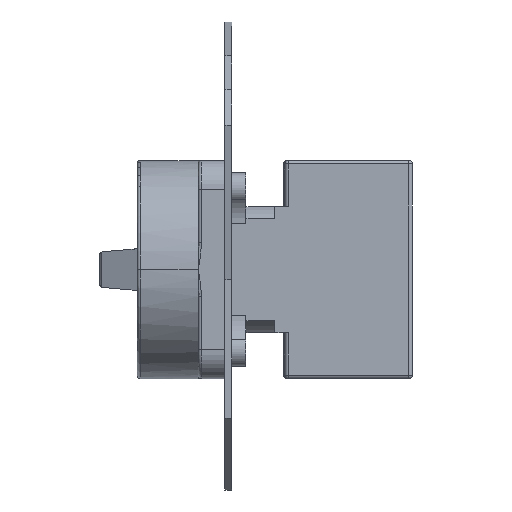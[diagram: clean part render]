
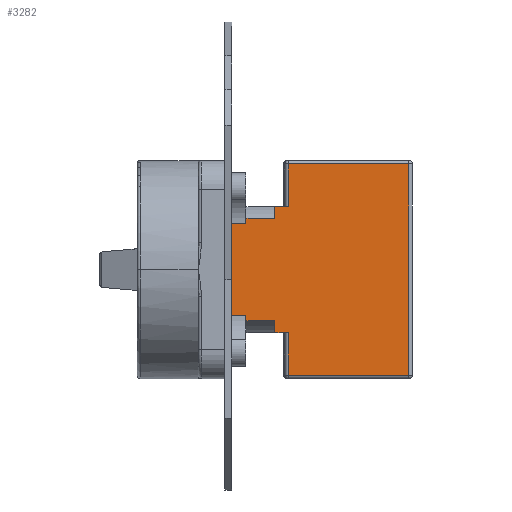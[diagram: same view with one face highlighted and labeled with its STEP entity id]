
A CAD part, left-side view. The second image highlights one B-rep face of the part: STEP entity #3282.
In plain terms, the highlighted planar face has unit normal (-1, 0, 0).
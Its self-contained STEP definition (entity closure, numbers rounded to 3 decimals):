
#46 = CARTESIAN_POINT ( 'NONE',  ( -24., 53., 19. ) ) ;
#63 = VECTOR ( 'NONE', #212, 1000. ) ;
#178 = VERTEX_POINT ( 'NONE', #8365 ) ;
#212 = DIRECTION ( 'NONE',  ( 0., 1., 0. ) ) ;
#269 = VERTEX_POINT ( 'NONE', #6031 ) ;
#303 = CARTESIAN_POINT ( 'NONE',  ( -24., 36.4, 31. ) ) ;
#400 = LINE ( 'NONE', #5191, #4523 ) ;
#495 = ORIENTED_EDGE ( 'NONE', *, *, #862, .T. ) ;
#595 = LINE ( 'NONE', #4546, #5238 ) ;
#597 = CARTESIAN_POINT ( 'NONE',  ( -24., 40.3, 15. ) ) ;
#615 = EDGE_CURVE ( 'NONE', #1034, #2747, #9546, .T. ) ;
#639 = CARTESIAN_POINT ( 'NONE',  ( -24., 0., 31. ) ) ;
#696 = EDGE_CURVE ( 'NONE', #5903, #1321, #1940, .T. ) ;
#790 = VECTOR ( 'NONE', #2286, 1000. ) ;
#862 = EDGE_CURVE ( 'NONE', #2634, #178, #400, .T. ) ;
#1034 = VERTEX_POINT ( 'NONE', #5939 ) ;
#1174 = ORIENTED_EDGE ( 'NONE', *, *, #2812, .F. ) ;
#1233 = LINE ( 'NONE', #3054, #7023 ) ;
#1321 = VERTEX_POINT ( 'NONE', #7843 ) ;
#1331 = ORIENTED_EDGE ( 'NONE', *, *, #5734, .F. ) ;
#1490 = VECTOR ( 'NONE', #7296, 1000. ) ;
#1552 = VERTEX_POINT ( 'NONE', #2984 ) ;
#1724 = CARTESIAN_POINT ( 'NONE',  ( -24., 40.3, -15. ) ) ;
#1759 = VERTEX_POINT ( 'NONE', #1957 ) ;
#1775 = VERTEX_POINT ( 'NONE', #303 ) ;
#1940 = LINE ( 'NONE', #8204, #6078 ) ;
#1957 = CARTESIAN_POINT ( 'NONE',  ( -24., 53., 13.495 ) ) ;
#1991 = VERTEX_POINT ( 'NONE', #2591 ) ;
#2022 = DIRECTION ( 'NONE',  ( 0., 0., -1. ) ) ;
#2071 = ORIENTED_EDGE ( 'NONE', *, *, #4347, .T. ) ;
#2279 = CARTESIAN_POINT ( 'NONE',  ( -24., 48.8, -13.495 ) ) ;
#2286 = DIRECTION ( 'NONE',  ( 0., 0., 1. ) ) ;
#2360 = ORIENTED_EDGE ( 'NONE', *, *, #615, .T. ) ;
#2492 = DIRECTION ( 'NONE',  ( 0., 0., 1. ) ) ;
#2533 = CARTESIAN_POINT ( 'NONE',  ( -24., 48.8, -13.495 ) ) ;
#2549 = ORIENTED_EDGE ( 'NONE', *, *, #3792, .F. ) ;
#2591 = CARTESIAN_POINT ( 'NONE',  ( -24., 36.4, 18.5 ) ) ;
#2610 = DIRECTION ( 'NONE',  ( 0., 0., -1. ) ) ;
#2634 = VERTEX_POINT ( 'NONE', #2533 ) ;
#2674 = ORIENTED_EDGE ( 'NONE', *, *, #7434, .T. ) ;
#2736 = LINE ( 'NONE', #1724, #3010 ) ;
#2747 = VERTEX_POINT ( 'NONE', #7588 ) ;
#2812 = EDGE_CURVE ( 'NONE', #4949, #1991, #595, .T. ) ;
#2821 = DIRECTION ( 'NONE',  ( 0., -1., 0. ) ) ;
#2984 = CARTESIAN_POINT ( 'NONE',  ( -24., 36.4, -18.5 ) ) ;
#3010 = VECTOR ( 'NONE', #7464, 1000. ) ;
#3020 = ORIENTED_EDGE ( 'NONE', *, *, #9047, .F. ) ;
#3054 = CARTESIAN_POINT ( 'NONE',  ( -24., 37.4, -18.5 ) ) ;
#3282 = ADVANCED_FACE ( 'NONE', ( #7157 ), #5904, .F. ) ;
#3315 = VERTEX_POINT ( 'NONE', #5166 ) ;
#3539 = EDGE_CURVE ( 'NONE', #1552, #9701, #1233, .T. ) ;
#3792 = EDGE_CURVE ( 'NONE', #8326, #178, #2736, .T. ) ;
#3848 = EDGE_CURVE ( 'NONE', #1552, #8873, #8808, .T. ) ;
#3892 = DIRECTION ( 'NONE',  ( 0., 1., 0. ) ) ;
#3899 = CARTESIAN_POINT ( 'NONE',  ( -24., 36.4, -31. ) ) ;
#3908 = LINE ( 'NONE', #6938, #10201 ) ;
#3912 = ORIENTED_EDGE ( 'NONE', *, *, #10324, .F. ) ;
#3974 = CARTESIAN_POINT ( 'NONE',  ( -24., 40.3, 18.5 ) ) ;
#4036 = VECTOR ( 'NONE', #2492, 1000. ) ;
#4091 = LINE ( 'NONE', #2279, #10639 ) ;
#4347 = EDGE_CURVE ( 'NONE', #2747, #1775, #5843, .T. ) ;
#4523 = VECTOR ( 'NONE', #6830, 1000. ) ;
#4546 = CARTESIAN_POINT ( 'NONE',  ( -24., 48.8, 18.5 ) ) ;
#4565 = LINE ( 'NONE', #46, #4036 ) ;
#4709 = LINE ( 'NONE', #597, #5227 ) ;
#4949 = VERTEX_POINT ( 'NONE', #3974 ) ;
#4987 = ORIENTED_EDGE ( 'NONE', *, *, #9149, .T. ) ;
#5078 = CARTESIAN_POINT ( 'NONE',  ( -24., 36.4, 0. ) ) ;
#5166 = CARTESIAN_POINT ( 'NONE',  ( -24., 40.3, 15. ) ) ;
#5167 = CARTESIAN_POINT ( 'NONE',  ( -24., 48.8, 13.495 ) ) ;
#5191 = CARTESIAN_POINT ( 'NONE',  ( -24., 48.8, -19. ) ) ;
#5212 = VECTOR ( 'NONE', #10098, 1000. ) ;
#5227 = VECTOR ( 'NONE', #5545, 1000. ) ;
#5238 = VECTOR ( 'NONE', #10294, 1000. ) ;
#5545 = DIRECTION ( 'NONE',  ( 0., 0., 1. ) ) ;
#5606 = EDGE_CURVE ( 'NONE', #1775, #1991, #5992, .T. ) ;
#5734 = EDGE_CURVE ( 'NONE', #3315, #4949, #4709, .T. ) ;
#5843 = LINE ( 'NONE', #639, #1490 ) ;
#5903 = VERTEX_POINT ( 'NONE', #8218 ) ;
#5904 = PLANE ( 'NONE',  #7640 ) ;
#5939 = CARTESIAN_POINT ( 'NONE',  ( -24., 1., -31. ) ) ;
#5940 = ORIENTED_EDGE ( 'NONE', *, *, #3848, .T. ) ;
#5992 = LINE ( 'NONE', #6961, #10365 ) ;
#6031 = CARTESIAN_POINT ( 'NONE',  ( -24., 53., -13.495 ) ) ;
#6078 = VECTOR ( 'NONE', #7389, 1000. ) ;
#6376 = VECTOR ( 'NONE', #9346, 1000. ) ;
#6624 = DIRECTION ( 'NONE',  ( 0., 0., 1. ) ) ;
#6728 = EDGE_CURVE ( 'NONE', #8873, #1034, #3908, .T. ) ;
#6830 = DIRECTION ( 'NONE',  ( 0., 0., -1. ) ) ;
#6938 = CARTESIAN_POINT ( 'NONE',  ( -24., 0., -31. ) ) ;
#6944 = CARTESIAN_POINT ( 'NONE',  ( -24., 40.3, -15. ) ) ;
#6961 = CARTESIAN_POINT ( 'NONE',  ( -24., 36.4, 0. ) ) ;
#7023 = VECTOR ( 'NONE', #3892, 1000. ) ;
#7144 = LINE ( 'NONE', #9252, #5212 ) ;
#7157 = FACE_OUTER_BOUND ( 'NONE', #7219, .T. ) ;
#7219 = EDGE_LOOP ( 'NONE', ( #2674, #3020, #3912, #495, #2549, #8137, #9249, #5940, #7794, #2360, #2071, #9634, #1174, #1331, #4987, #9763 ) ) ;
#7221 = DIRECTION ( 'NONE',  ( 0., 1., 0. ) ) ;
#7229 = CARTESIAN_POINT ( 'NONE',  ( -24., 40.3, -15. ) ) ;
#7269 = CARTESIAN_POINT ( 'NONE',  ( -24., 40.3, -18.5 ) ) ;
#7296 = DIRECTION ( 'NONE',  ( 0., 1., 0. ) ) ;
#7389 = DIRECTION ( 'NONE',  ( 0., 0., -1. ) ) ;
#7434 = EDGE_CURVE ( 'NONE', #1321, #1759, #8301, .T. ) ;
#7444 = CARTESIAN_POINT ( 'NONE',  ( -24., 1., 0. ) ) ;
#7464 = DIRECTION ( 'NONE',  ( 0., 1., 0. ) ) ;
#7550 = DIRECTION ( 'NONE',  ( 1., 0., 0. ) ) ;
#7588 = CARTESIAN_POINT ( 'NONE',  ( -24., 1., 31. ) ) ;
#7640 = AXIS2_PLACEMENT_3D ( 'NONE', #9997, #7550, #2610 ) ;
#7794 = ORIENTED_EDGE ( 'NONE', *, *, #6728, .T. ) ;
#7843 = CARTESIAN_POINT ( 'NONE',  ( -24., 48.8, 13.495 ) ) ;
#8137 = ORIENTED_EDGE ( 'NONE', *, *, #9666, .F. ) ;
#8204 = CARTESIAN_POINT ( 'NONE',  ( -24., 48.8, 13.495 ) ) ;
#8218 = CARTESIAN_POINT ( 'NONE',  ( -24., 48.8, 15. ) ) ;
#8301 = LINE ( 'NONE', #5167, #63 ) ;
#8326 = VERTEX_POINT ( 'NONE', #6944 ) ;
#8365 = CARTESIAN_POINT ( 'NONE',  ( -24., 48.8, -15. ) ) ;
#8808 = LINE ( 'NONE', #5078, #6376 ) ;
#8873 = VERTEX_POINT ( 'NONE', #3899 ) ;
#9014 = LINE ( 'NONE', #7229, #790 ) ;
#9047 = EDGE_CURVE ( 'NONE', #269, #1759, #4565, .T. ) ;
#9149 = EDGE_CURVE ( 'NONE', #3315, #5903, #7144, .T. ) ;
#9249 = ORIENTED_EDGE ( 'NONE', *, *, #3539, .F. ) ;
#9252 = CARTESIAN_POINT ( 'NONE',  ( -24., 40.3, 15. ) ) ;
#9261 = VECTOR ( 'NONE', #6624, 1000. ) ;
#9346 = DIRECTION ( 'NONE',  ( 0., 0., -1. ) ) ;
#9546 = LINE ( 'NONE', #7444, #9261 ) ;
#9634 = ORIENTED_EDGE ( 'NONE', *, *, #5606, .T. ) ;
#9666 = EDGE_CURVE ( 'NONE', #9701, #8326, #9014, .T. ) ;
#9701 = VERTEX_POINT ( 'NONE', #7269 ) ;
#9763 = ORIENTED_EDGE ( 'NONE', *, *, #696, .T. ) ;
#9997 = CARTESIAN_POINT ( 'NONE',  ( -24., 0., 0. ) ) ;
#10098 = DIRECTION ( 'NONE',  ( 0., 1., 0. ) ) ;
#10201 = VECTOR ( 'NONE', #2821, 1000. ) ;
#10294 = DIRECTION ( 'NONE',  ( 0., -1., 0. ) ) ;
#10324 = EDGE_CURVE ( 'NONE', #2634, #269, #4091, .T. ) ;
#10365 = VECTOR ( 'NONE', #2022, 1000. ) ;
#10639 = VECTOR ( 'NONE', #7221, 1000. ) ;
